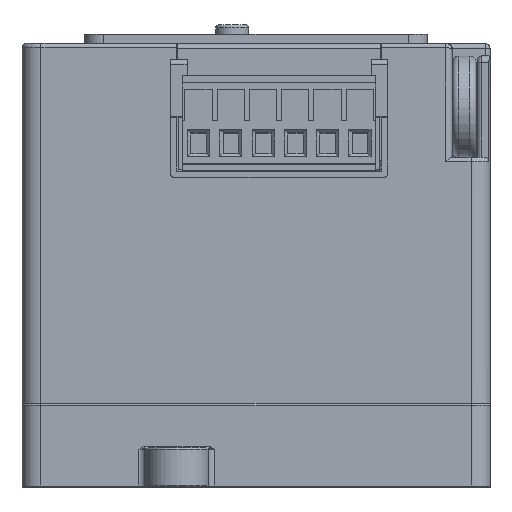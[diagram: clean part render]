
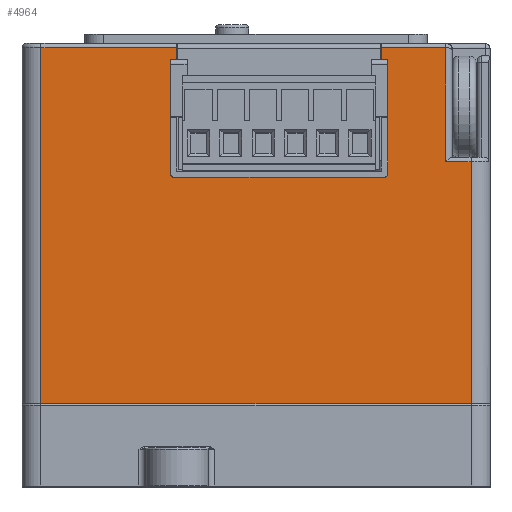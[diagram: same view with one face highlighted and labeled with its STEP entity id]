
A CAD part, top view. The second image highlights one B-rep face of the part: STEP entity #4964.
In plain terms, the highlighted planar face has unit normal (0, 0, 1) as drawn and (1, 0, 0) by its records, which use the part's own axes.
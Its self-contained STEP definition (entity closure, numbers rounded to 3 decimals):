
#3216=CIRCLE('',#45832,0.5);
#3217=CIRCLE('',#45833,0.5);
#4964=ADVANCED_FACE('',(#8796),#6807,.F.);
#6807=PLANE('',#45834);
#8796=FACE_OUTER_BOUND('',#11188,.T.);
#11188=EDGE_LOOP('',(#20731,#20732,#20733,#20734,#20735,#20736,#20737,#20738,
#20739,#20740,#20741,#20742,#20743,#20744,#20745,#20746));
#20731=ORIENTED_EDGE('',*,*,#32530,.T.);
#20732=ORIENTED_EDGE('',*,*,#32531,.T.);
#20733=ORIENTED_EDGE('',*,*,#32532,.T.);
#20734=ORIENTED_EDGE('',*,*,#32533,.F.);
#20735=ORIENTED_EDGE('',*,*,#32534,.F.);
#20736=ORIENTED_EDGE('',*,*,#32535,.F.);
#20737=ORIENTED_EDGE('',*,*,#32536,.T.);
#20738=ORIENTED_EDGE('',*,*,#32537,.F.);
#20739=ORIENTED_EDGE('',*,*,#32538,.T.);
#20740=ORIENTED_EDGE('',*,*,#32539,.F.);
#20741=ORIENTED_EDGE('',*,*,#32540,.F.);
#20742=ORIENTED_EDGE('',*,*,#32541,.T.);
#20743=ORIENTED_EDGE('',*,*,#32542,.T.);
#20744=ORIENTED_EDGE('',*,*,#32543,.T.);
#20745=ORIENTED_EDGE('',*,*,#32544,.T.);
#20746=ORIENTED_EDGE('',*,*,#32545,.T.);
#27114=VERTEX_POINT('',#75608);
#27115=VERTEX_POINT('',#75609);
#27116=VERTEX_POINT('',#75611);
#27117=VERTEX_POINT('',#75613);
#27118=VERTEX_POINT('',#75615);
#27119=VERTEX_POINT('',#75617);
#27120=VERTEX_POINT('',#75619);
#27121=VERTEX_POINT('',#75621);
#27122=VERTEX_POINT('',#75623);
#27123=VERTEX_POINT('',#75625);
#27124=VERTEX_POINT('',#75627);
#27125=VERTEX_POINT('',#75629);
#27126=VERTEX_POINT('',#75631);
#27127=VERTEX_POINT('',#75633);
#27128=VERTEX_POINT('',#75635);
#27129=VERTEX_POINT('',#75637);
#32530=EDGE_CURVE('',#27114,#27115,#37647,.T.);
#32531=EDGE_CURVE('',#27115,#27116,#37648,.T.);
#32532=EDGE_CURVE('',#27116,#27117,#37649,.T.);
#32533=EDGE_CURVE('',#27118,#27117,#37650,.T.);
#32534=EDGE_CURVE('',#27119,#27118,#37651,.T.);
#32535=EDGE_CURVE('',#27120,#27119,#37652,.T.);
#32536=EDGE_CURVE('',#27120,#27121,#3216,.T.);
#32537=EDGE_CURVE('',#27122,#27121,#37653,.T.);
#32538=EDGE_CURVE('',#27122,#27123,#3217,.T.);
#32539=EDGE_CURVE('',#27124,#27123,#37654,.T.);
#32540=EDGE_CURVE('',#27125,#27124,#37655,.T.);
#32541=EDGE_CURVE('',#27125,#27126,#37656,.T.);
#32542=EDGE_CURVE('',#27126,#27127,#37657,.T.);
#32543=EDGE_CURVE('',#27127,#27128,#37658,.T.);
#32544=EDGE_CURVE('',#27128,#27129,#37659,.T.);
#32545=EDGE_CURVE('',#27129,#27114,#37660,.T.);
#37647=LINE('',#75607,#42659);
#37648=LINE('',#75610,#42660);
#37649=LINE('',#75612,#42661);
#37650=LINE('',#75614,#42662);
#37651=LINE('',#75616,#42663);
#37652=LINE('',#75618,#42664);
#37653=LINE('',#75622,#42665);
#37654=LINE('',#75626,#42666);
#37655=LINE('',#75628,#42667);
#37656=LINE('',#75630,#42668);
#37657=LINE('',#75632,#42669);
#37658=LINE('',#75634,#42670);
#37659=LINE('',#75636,#42671);
#37660=LINE('',#75638,#42672);
#42659=VECTOR('',#54503,1.);
#42660=VECTOR('',#54504,1.);
#42661=VECTOR('',#54505,1.);
#42662=VECTOR('',#54506,1.);
#42663=VECTOR('',#54507,1.);
#42664=VECTOR('',#54508,1.);
#42665=VECTOR('',#54511,1.);
#42666=VECTOR('',#54514,1.);
#42667=VECTOR('',#54515,1.);
#42668=VECTOR('',#54516,1.);
#42669=VECTOR('',#54517,1.);
#42670=VECTOR('',#54518,1.);
#42671=VECTOR('',#54519,1.);
#42672=VECTOR('',#54520,1.);
#45832=AXIS2_PLACEMENT_3D('',#75620,#54509,#54510);
#45833=AXIS2_PLACEMENT_3D('',#75624,#54512,#54513);
#45834=AXIS2_PLACEMENT_3D('',#75639,#54521,#54522);
#54503=DIRECTION('',(0.,0.,1.));
#54504=DIRECTION('',(0.,1.,0.));
#54505=DIRECTION('',(0.,0.,1.));
#54506=DIRECTION('',(0.,1.,0.));
#54507=DIRECTION('',(0.,0.,1.));
#54508=DIRECTION('',(0.,1.,0.));
#54509=DIRECTION('',(-1.,0.,0.));
#54510=DIRECTION('',(0.,0.,1.));
#54511=DIRECTION('',(0.,0.,-1.));
#54512=DIRECTION('',(-1.,0.,0.));
#54513=DIRECTION('',(0.,0.,1.));
#54514=DIRECTION('',(0.,-1.,0.));
#54515=DIRECTION('',(0.,0.,1.));
#54516=DIRECTION('',(0.,1.,0.));
#54517=DIRECTION('',(0.,0.,1.));
#54518=DIRECTION('',(0.,-1.,0.));
#54519=DIRECTION('',(0.,0.,-1.));
#54520=DIRECTION('',(0.,1.,0.));
#54521=DIRECTION('',(-1.,0.,0.));
#54522=DIRECTION('',(0.,0.,1.));
#75607=CARTESIAN_POINT('',(41.,38.3,-37.));
#75608=CARTESIAN_POINT('',(41.,38.3,-34.));
#75609=CARTESIAN_POINT('',(41.,38.3,-30.));
#75610=CARTESIAN_POINT('',(41.,57.,-30.));
#75611=CARTESIAN_POINT('',(41.,56.3,-30.));
#75612=CARTESIAN_POINT('',(41.,56.3,-19.8));
#75613=CARTESIAN_POINT('',(41.,56.3,-19.8));
#75614=CARTESIAN_POINT('',(41.,36.8,-19.8));
#75615=CARTESIAN_POINT('',(41.,45.3,-19.8));
#75616=CARTESIAN_POINT('',(41.,45.3,-19.8));
#75617=CARTESIAN_POINT('',(41.,45.3,-20.8));
#75618=CARTESIAN_POINT('',(41.,45.3,-20.8));
#75619=CARTESIAN_POINT('',(41.,36.3,-20.8));
#75620=CARTESIAN_POINT('',(41.,36.3,-20.3));
#75621=CARTESIAN_POINT('',(41.,35.8,-20.3));
#75622=CARTESIAN_POINT('',(41.,35.8,-20.8));
#75623=CARTESIAN_POINT('',(41.,35.8,13.));
#75624=CARTESIAN_POINT('',(41.,36.3,13.));
#75625=CARTESIAN_POINT('',(41.,36.3,13.5));
#75626=CARTESIAN_POINT('',(41.,35.8,13.5));
#75627=CARTESIAN_POINT('',(41.,45.3,13.5));
#75628=CARTESIAN_POINT('',(41.,45.3,13.5));
#75629=CARTESIAN_POINT('',(41.,45.3,12.5));
#75630=CARTESIAN_POINT('',(41.,36.8,12.5));
#75631=CARTESIAN_POINT('',(41.,56.3,12.5));
#75632=CARTESIAN_POINT('',(41.,56.3,34.));
#75633=CARTESIAN_POINT('',(41.,56.3,34.));
#75634=CARTESIAN_POINT('',(41.,57.,34.));
#75635=CARTESIAN_POINT('',(41.,0.,34.));
#75636=CARTESIAN_POINT('',(41.,0.,-37.));
#75637=CARTESIAN_POINT('',(41.,0.,-34.));
#75638=CARTESIAN_POINT('',(41.,57.,-34.));
#75639=CARTESIAN_POINT('',(41.,57.,-37.));
